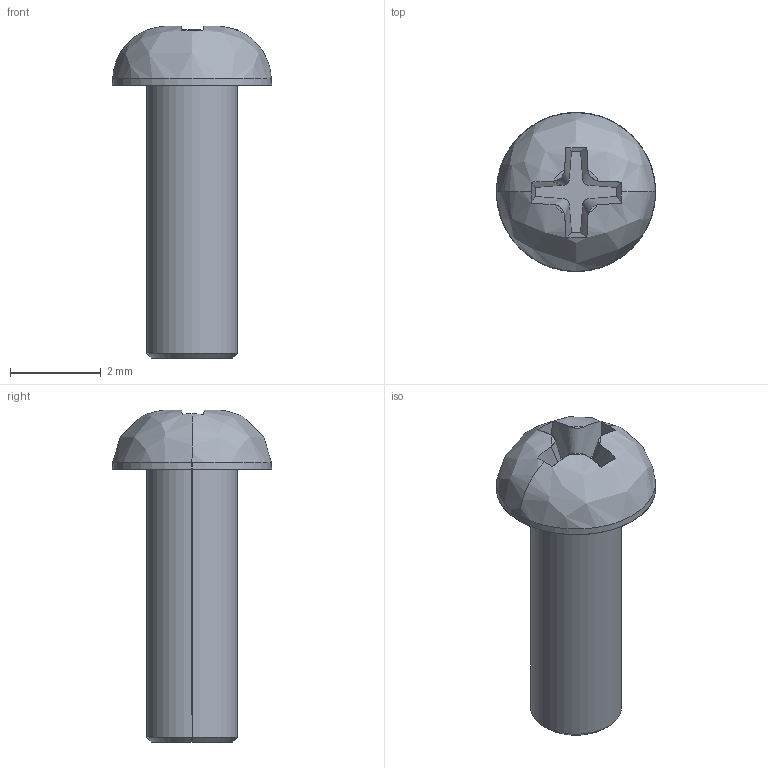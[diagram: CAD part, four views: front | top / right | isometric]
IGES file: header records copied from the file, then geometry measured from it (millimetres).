
Start section: SolidWorks IGES file using analytic representation for surfaces
Bounding box: 3.5 x 3.5 x 7.3 mm (x, y, z)
Surface area: 68.9 mm2 (no closed solid volume)
Topology: 0 solids, 0 shells, 24 faces, 290 edges, 290 vertices
Faces by surface type: bspline 18, revolution 6
